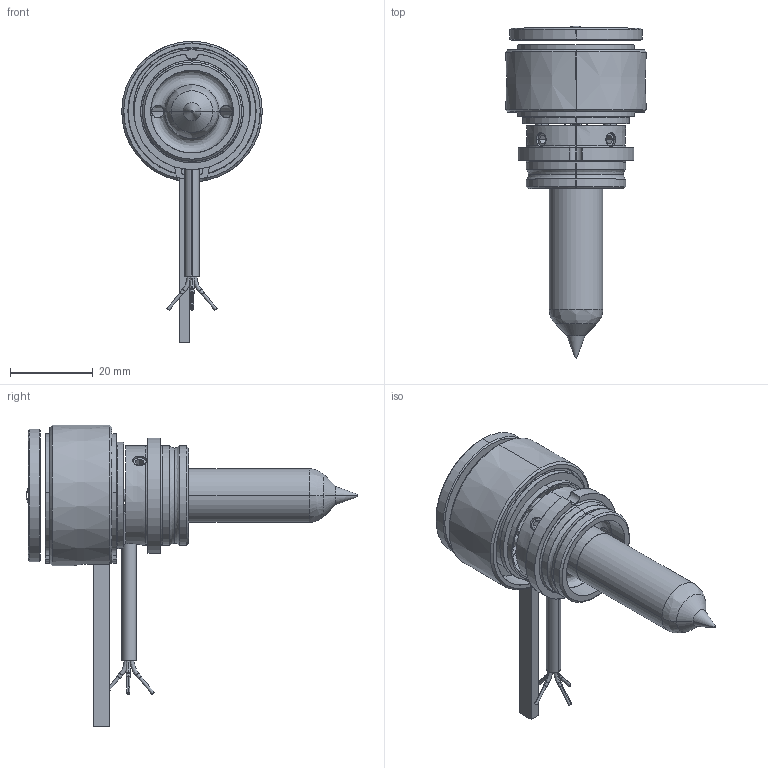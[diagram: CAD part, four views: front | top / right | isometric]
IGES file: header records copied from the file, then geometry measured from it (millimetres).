
Start section: SolidWorks IGES file using analytic representation for surfaces
Global section: file name: C:\Documents and Settings\ws-20\Desktop\TEM\UGGS2520-S-0 [Øf-0.47].IGS; native system: SolidWorks 2012; preprocessor: SolidWorks 2012; author: ws-20; date: 120516.092928; units: millimetre
Bounding box: 34 x 80.3 x 72.9 mm (x, y, z)
Surface area: 15645.4 mm2 (no closed solid volume)
Topology: 0 solids, 0 shells, 203 faces, 2947 edges, 2941 vertices
Faces by surface type: revolution 127, bspline 76
